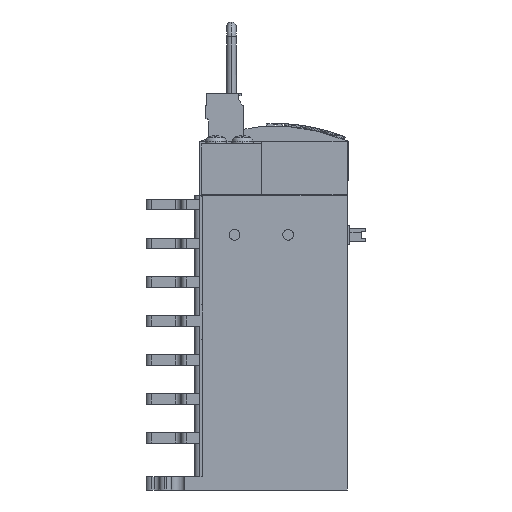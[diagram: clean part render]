
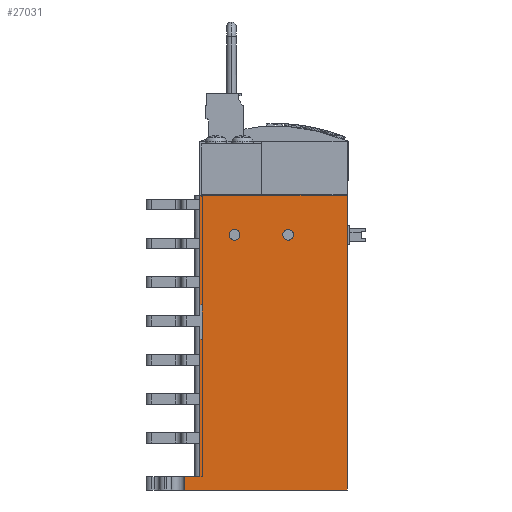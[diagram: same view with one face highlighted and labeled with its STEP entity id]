
A CAD part, front view. The second image highlights one B-rep face of the part: STEP entity #27031.
In plain terms, the highlighted planar face has unit normal (0, -1, 0).
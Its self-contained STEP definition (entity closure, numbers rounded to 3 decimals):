
#14231 = LINE ( 'NONE', #14303, #14302 ) ;
#14232 = CARTESIAN_POINT ( 'NONE',  ( 9., -154.5, 118.95 ) ) ;
#14241 = DIRECTION ( 'NONE',  ( 0., 0., 1. ) ) ;
#14242 = VECTOR ( 'NONE', #14241, 1000. ) ;
#14243 = CARTESIAN_POINT ( 'NONE',  ( 2.5, -154.5, 49.899 ) ) ;
#14244 = LINE ( 'NONE', #14243, #14242 ) ;
#14292 = DIRECTION ( 'NONE',  ( 0., 0., 1. ) ) ;
#14293 = VECTOR ( 'NONE', #14292, 1000. ) ;
#14294 = CARTESIAN_POINT ( 'NONE',  ( 9., -154.5, 106.1 ) ) ;
#14295 = LINE ( 'NONE', #14294, #14293 ) ;
#14301 = DIRECTION ( 'NONE',  ( -1., 0., 0. ) ) ;
#14302 = VECTOR ( 'NONE', #14301, 1000. ) ;
#14303 = CARTESIAN_POINT ( 'NONE',  ( 9., -154.5, 118.95 ) ) ;
#14426 = LINE ( 'NONE', #14566, #14565 ) ;
#14443 = CARTESIAN_POINT ( 'NONE',  ( 2.5, -154.5, 49.9 ) ) ;
#14444 = CARTESIAN_POINT ( 'NONE',  ( 63., -154.5, 49.9 ) ) ;
#14564 = DIRECTION ( 'NONE',  ( 1., 0., 0. ) ) ;
#14565 = VECTOR ( 'NONE', #14564, 1000. ) ;
#14566 = CARTESIAN_POINT ( 'NONE',  ( -19.778, -154.5, 49.9 ) ) ;
#14792 = DIRECTION ( 'NONE',  ( 0., 0., -1. ) ) ;
#14793 = DIRECTION ( 'NONE',  ( 0., -1., 0. ) ) ;
#14794 = CARTESIAN_POINT ( 'NONE',  ( 21., -154.5, 145.128 ) ) ;
#14795 = AXIS2_PLACEMENT_3D ( 'NONE', #14794, #14793, #14792 ) ;
#14796 = CIRCLE ( 'NONE', #14795, 2. ) ;
#25464 = VERTEX_POINT ( 'NONE', #58454 ) ;
#25517 = VERTEX_POINT ( 'NONE', #58645 ) ;
#25524 = EDGE_CURVE ( 'NONE', #25464, #25525, #58758, .T. ) ;
#25525 = VERTEX_POINT ( 'NONE', #58753 ) ;
#25542 = EDGE_CURVE ( 'NONE', #63787, #25464, #58827, .T. ) ;
#25938 = VERTEX_POINT ( 'NONE', #59298 ) ;
#26115 = EDGE_CURVE ( 'NONE', #25517, #26116, #59711, .T. ) ;
#26116 = VERTEX_POINT ( 'NONE', #59704 ) ;
#27031 = ADVANCED_FACE ( 'NONE', ( #68053, #68052, #68051 ), #68050, .T. ) ;
#27034 = EDGE_LOOP ( 'NONE', ( #27036, #27041 ) ) ;
#27036 = ORIENTED_EDGE ( 'NONE', *, *, #27039, .F. ) ;
#27039 = EDGE_CURVE ( 'NONE', #63664, #63655, #68099, .T. ) ;
#27041 = ORIENTED_EDGE ( 'NONE', *, *, #63657, .F. ) ;
#27044 = EDGE_LOOP ( 'NONE', ( #27726, #27729 ) ) ;
#27159 = VERTEX_POINT ( 'NONE', #51322 ) ;
#27163 = EDGE_CURVE ( 'NONE', #27567, #27159, #51314, .T. ) ;
#27195 = EDGE_CURVE ( 'NONE', #27159, #26116, #51368, .T. ) ;
#27482 = EDGE_LOOP ( 'NONE', ( #27484, #27488, #27490, #27492, #27494, #27496, #27502, #27506, #27507, #27509 ) ) ;
#27484 = ORIENTED_EDGE ( 'NONE', *, *, #27486, .F. ) ;
#27486 = EDGE_CURVE ( 'NONE', #27568, #25938, #14244, .T. ) ;
#27488 = ORIENTED_EDGE ( 'NONE', *, *, #27571, .T. ) ;
#27490 = ORIENTED_EDGE ( 'NONE', *, *, #27163, .T. ) ;
#27492 = ORIENTED_EDGE ( 'NONE', *, *, #27195, .T. ) ;
#27494 = ORIENTED_EDGE ( 'NONE', *, *, #26115, .F. ) ;
#27496 = ORIENTED_EDGE ( 'NONE', *, *, #27500, .F. ) ;
#27498 = VERTEX_POINT ( 'NONE', #14232 ) ;
#27500 = EDGE_CURVE ( 'NONE', #27498, #25517, #14231, .T. ) ;
#27502 = ORIENTED_EDGE ( 'NONE', *, *, #27504, .F. ) ;
#27504 = EDGE_CURVE ( 'NONE', #25525, #27498, #14295, .T. ) ;
#27506 = ORIENTED_EDGE ( 'NONE', *, *, #25524, .F. ) ;
#27507 = ORIENTED_EDGE ( 'NONE', *, *, #25542, .F. ) ;
#27509 = ORIENTED_EDGE ( 'NONE', *, *, #63786, .F. ) ;
#27567 = VERTEX_POINT ( 'NONE', #14444 ) ;
#27568 = VERTEX_POINT ( 'NONE', #14443 ) ;
#27571 = EDGE_CURVE ( 'NONE', #27568, #27567, #14426, .T. ) ;
#27726 = ORIENTED_EDGE ( 'NONE', *, *, #27727, .F. ) ;
#27727 = EDGE_CURVE ( 'NONE', #63728, #63725, #14796, .T. ) ;
#27729 = ORIENTED_EDGE ( 'NONE', *, *, #63727, .F. ) ;
#51310 = DIRECTION ( 'NONE',  ( 0., 0., 1. ) ) ;
#51312 = VECTOR ( 'NONE', #51310, 1000. ) ;
#51313 = CARTESIAN_POINT ( 'NONE',  ( 63., -154.5, -3.2 ) ) ;
#51314 = LINE ( 'NONE', #51313, #51312 ) ;
#51322 = CARTESIAN_POINT ( 'NONE',  ( 63., -154.5, 159.9 ) ) ;
#51362 = DIRECTION ( 'NONE',  ( -1., 0., 0. ) ) ;
#51364 = VECTOR ( 'NONE', #51362, 1000. ) ;
#51366 = CARTESIAN_POINT ( 'NONE',  ( -19.778, -154.5, 159.9 ) ) ;
#51368 = LINE ( 'NONE', #51366, #51364 ) ;
#58454 = CARTESIAN_POINT ( 'NONE',  ( 8., -154.5, 106.1 ) ) ;
#58645 = CARTESIAN_POINT ( 'NONE',  ( 8., -154.5, 118.95 ) ) ;
#58753 = CARTESIAN_POINT ( 'NONE',  ( 9., -154.5, 106.1 ) ) ;
#58755 = DIRECTION ( 'NONE',  ( 1., 0., 0. ) ) ;
#58756 = VECTOR ( 'NONE', #58755, 1000. ) ;
#58757 = CARTESIAN_POINT ( 'NONE',  ( 8., -154.5, 106.1 ) ) ;
#58758 = LINE ( 'NONE', #58757, #58756 ) ;
#58824 = DIRECTION ( 'NONE',  ( 0., 0., 1. ) ) ;
#58825 = VECTOR ( 'NONE', #58824, 1000. ) ;
#58826 = CARTESIAN_POINT ( 'NONE',  ( 8., -154.5, 54.9 ) ) ;
#58827 = LINE ( 'NONE', #58826, #58825 ) ;
#59298 = CARTESIAN_POINT ( 'NONE',  ( 2.5, -154.5, 54.9 ) ) ;
#59704 = CARTESIAN_POINT ( 'NONE',  ( 8., -154.5, 159.9 ) ) ;
#59705 = DIRECTION ( 'NONE',  ( 0., 0., 1. ) ) ;
#59707 = VECTOR ( 'NONE', #59705, 1000. ) ;
#59709 = CARTESIAN_POINT ( 'NONE',  ( 8., -154.5, 54.9 ) ) ;
#59711 = LINE ( 'NONE', #59709, #59707 ) ;
#59869 = CARTESIAN_POINT ( 'NONE',  ( 41., -154.5, 143.128 ) ) ;
#59900 = DIRECTION ( 'NONE',  ( 0., 0., -1. ) ) ;
#59902 = DIRECTION ( 'NONE',  ( 0., -1., 0. ) ) ;
#59904 = CARTESIAN_POINT ( 'NONE',  ( 41., -154.5, 145.128 ) ) ;
#59906 = AXIS2_PLACEMENT_3D ( 'NONE', #59904, #59902, #59900 ) ;
#59908 = CIRCLE ( 'NONE', #59906, 2. ) ;
#59911 = CARTESIAN_POINT ( 'NONE',  ( 41., -154.5, 147.128 ) ) ;
#60163 = CARTESIAN_POINT ( 'NONE',  ( 21., -154.5, 143.128 ) ) ;
#60164 = DIRECTION ( 'NONE',  ( 0., 0., -1. ) ) ;
#60165 = DIRECTION ( 'NONE',  ( 0., -1., 0. ) ) ;
#60167 = CARTESIAN_POINT ( 'NONE',  ( 21., -154.5, 145.128 ) ) ;
#60168 = AXIS2_PLACEMENT_3D ( 'NONE', #60167, #60165, #60164 ) ;
#60170 = CIRCLE ( 'NONE', #60168, 2. ) ;
#60174 = CARTESIAN_POINT ( 'NONE',  ( 21., -154.5, 147.128 ) ) ;
#60333 = CARTESIAN_POINT ( 'NONE',  ( 8., -154.5, 54.9 ) ) ;
#60335 = DIRECTION ( 'NONE',  ( 1., 0., 0. ) ) ;
#60336 = VECTOR ( 'NONE', #60335, 1000. ) ;
#60338 = CARTESIAN_POINT ( 'NONE',  ( -12., -154.5, 54.9 ) ) ;
#60340 = LINE ( 'NONE', #60338, #60336 ) ;
#63655 = VERTEX_POINT ( 'NONE', #59911 ) ;
#63657 = EDGE_CURVE ( 'NONE', #63655, #63664, #59908, .T. ) ;
#63664 = VERTEX_POINT ( 'NONE', #59869 ) ;
#63725 = VERTEX_POINT ( 'NONE', #60174 ) ;
#63727 = EDGE_CURVE ( 'NONE', #63725, #63728, #60170, .T. ) ;
#63728 = VERTEX_POINT ( 'NONE', #60163 ) ;
#63786 = EDGE_CURVE ( 'NONE', #25938, #63787, #60340, .T. ) ;
#63787 = VERTEX_POINT ( 'NONE', #60333 ) ;
#68050 = PLANE ( 'NONE',  #68114 ) ;
#68051 = FACE_OUTER_BOUND ( 'NONE', #27482, .T. ) ;
#68052 = FACE_BOUND ( 'NONE', #27044, .T. ) ;
#68053 = FACE_BOUND ( 'NONE', #27034, .T. ) ;
#68096 = DIRECTION ( 'NONE',  ( 0., 0., -1. ) ) ;
#68097 = DIRECTION ( 'NONE',  ( 0., -1., 0. ) ) ;
#68098 = AXIS2_PLACEMENT_3D ( 'NONE', #68104, #68097, #68096 ) ;
#68099 = CIRCLE ( 'NONE', #68098, 2. ) ;
#68104 = CARTESIAN_POINT ( 'NONE',  ( 41., -154.5, 145.128 ) ) ;
#68111 = DIRECTION ( 'NONE',  ( 0., 0., -1. ) ) ;
#68112 = DIRECTION ( 'NONE',  ( 0., -1., 0. ) ) ;
#68113 = CARTESIAN_POINT ( 'NONE',  ( -19.778, -154.5, -3.2 ) ) ;
#68114 = AXIS2_PLACEMENT_3D ( 'NONE', #68113, #68112, #68111 ) ;
